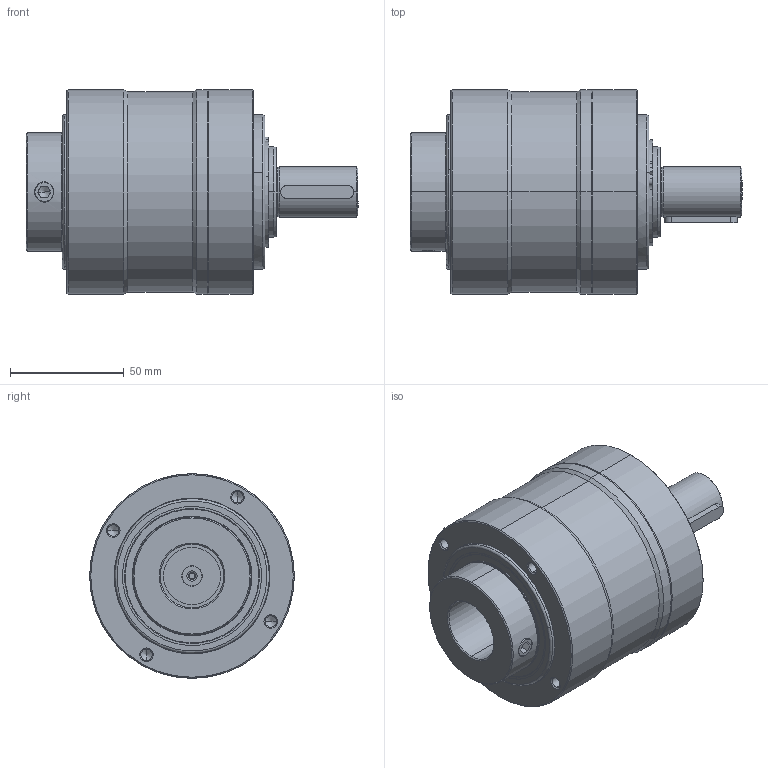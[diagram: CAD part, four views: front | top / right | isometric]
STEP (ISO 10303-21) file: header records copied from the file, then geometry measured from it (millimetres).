
FILE_DESCRIPTION (( 'STEP AP214' ), '1' );
FILE_NAME ('RPL090 1-ST.STEP', '2023-07-26T14:44:12', ( '' ), ( '' ), 'SwSTEP 2.0', 'SolidWorks 2021', '' );
FILE_SCHEMA (( 'AUTOMOTIVE_DESIGN' ));
Length unit declared in the file: millimetre
Products named in the file (1): RPL090 1-ST
Bounding box: 145.95 x 90 x 90 mm (x, y, z)
Volume: 569299.3 mm3; surface area: 50572.6 mm2
Topology: 1 solids, 1 shells, 223 faces, 502 edges, 293 vertices
Faces by surface type: cone 92, cylinder 76, plane 41, bspline 10, torus 4
Entity records: 8942 total; most frequent: CARTESIAN_POINT 1586, DIRECTION 1155, ORIENTED_EDGE 964, EDGE_CURVE 482, AXIS2_PLACEMENT_3D 480, VERTEX_POINT 293, CIRCLE 266, EDGE_LOOP 255
